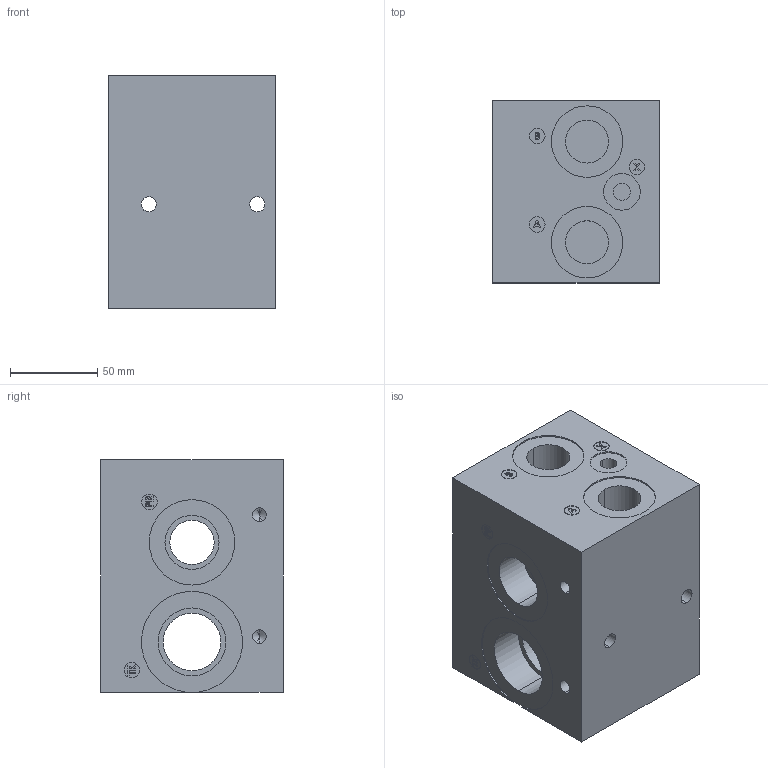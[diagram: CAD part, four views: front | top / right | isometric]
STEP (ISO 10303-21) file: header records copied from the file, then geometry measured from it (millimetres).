
FILE_DESCRIPTION (( 'STEP AP203' ), '1' );
FILE_NAME ('BM-AHP05HS3-01-1_Z.STEP', '2015-01-06T16:18:57', ( '' ), ( '' ), 'SwSTEP 2.0', 'SolidWorks 2014', '' );
FILE_SCHEMA (( 'CONFIG_CONTROL_DESIGN' ));
Length unit declared in the file: inch
Products named in the file (1): BM-AHP05HS3-01-1_Z
Bounding box: 95.25 x 104.65 x 133.35 mm (x, y, z)
Volume: 1122819.4 mm3; surface area: 105930.2 mm2
Topology: 1 solids, 1 shells, 326 faces, 805 edges, 513 vertices
Faces by surface type: plane 170, cylinder 97, cone 30, bspline 29
Entity records: 11272 total; most frequent: CARTESIAN_POINT 3610, ORIENTED_EDGE 1554, DIRECTION 1503, EDGE_CURVE 777, LINE 519, VECTOR 519, VERTEX_POINT 513, AXIS2_PLACEMENT_3D 492
